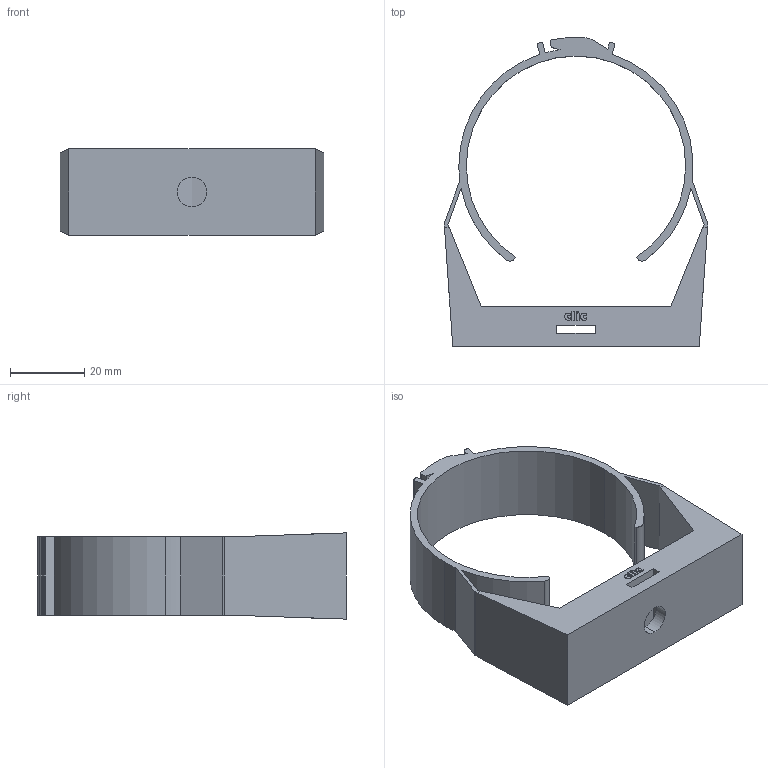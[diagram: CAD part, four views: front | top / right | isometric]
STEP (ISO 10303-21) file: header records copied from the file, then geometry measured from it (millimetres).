
FILE_DESCRIPTION (( 'STEP AP214' ), '1' );
FILE_NAME ('CLIC59.STEP', '2021-10-11T09:44:26', ( '' ), ( '' ), 'SwSTEP 2.0', 'SolidWorks 2021', '' );
FILE_SCHEMA (( 'AUTOMOTIVE_DESIGN' ));
Length unit declared in the file: millimetre
Products named in the file (1): CLIC59
Bounding box: 70.87 x 83.1 x 23.2 mm (x, y, z)
Volume: 28010.7 mm3; surface area: 16199.2 mm2
Topology: 1 solids, 1 shells, 118 faces, 324 edges, 216 vertices
Faces by surface type: plane 61, cylinder 29, bspline 28
Entity records: 3860 total; most frequent: CARTESIAN_POINT 1023, ORIENTED_EDGE 648, DIRECTION 508, EDGE_CURVE 324, VERTEX_POINT 216, LINE 210, VECTOR 210, AXIS2_PLACEMENT_3D 149
